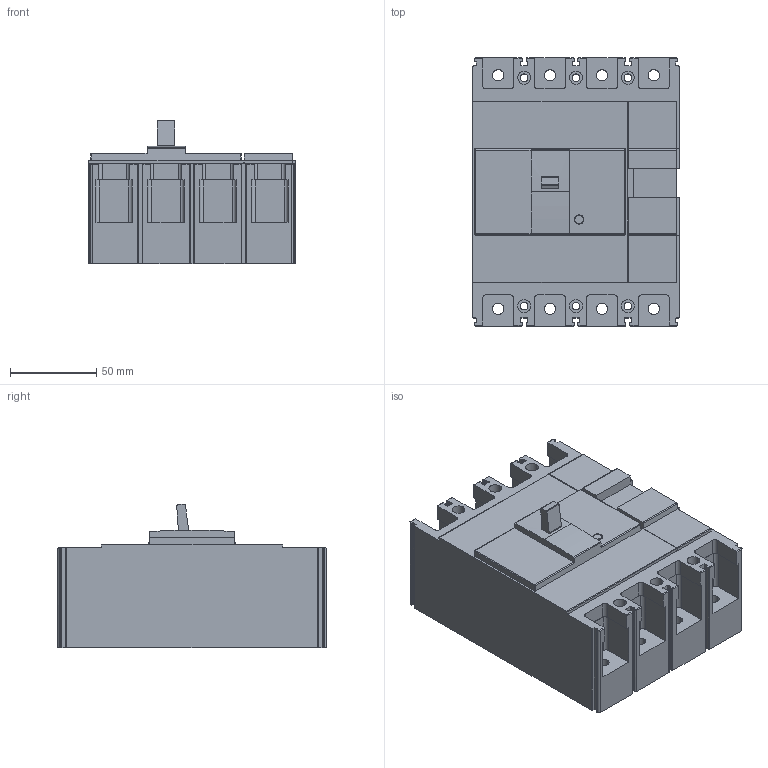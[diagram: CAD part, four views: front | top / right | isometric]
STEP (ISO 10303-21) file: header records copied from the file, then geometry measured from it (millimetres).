
FILE_DESCRIPTION (( 'STEP AP203' ), '1' );
FILE_NAME ('SMART 125AF 4P.STEP', '2018-01-04T00:31:46', ( '' ), ( '' ), 'SwSTEP 2.0', 'SolidWorks 2015', '' );
FILE_SCHEMA (( 'CONFIG_CONTROL_DESIGN' ));
Length unit declared in the file: millimetre
Products named in the file (1): SMART 125AF 4P
Bounding box: 119.6 x 155 x 83.06 mm (x, y, z)
Volume: 1001137.9 mm3; surface area: 97134.5 mm2
Topology: 1 solids, 1 shells, 378 faces, 1080 edges, 714 vertices
Faces by surface type: plane 191, cylinder 183, torus 4
Entity records: 12550 total; most frequent: CARTESIAN_POINT 2268, ORIENTED_EDGE 2160, DIRECTION 2157, EDGE_CURVE 1080, AXIS2_PLACEMENT_3D 719, VECTOR 719, LINE 719, VERTEX_POINT 714
